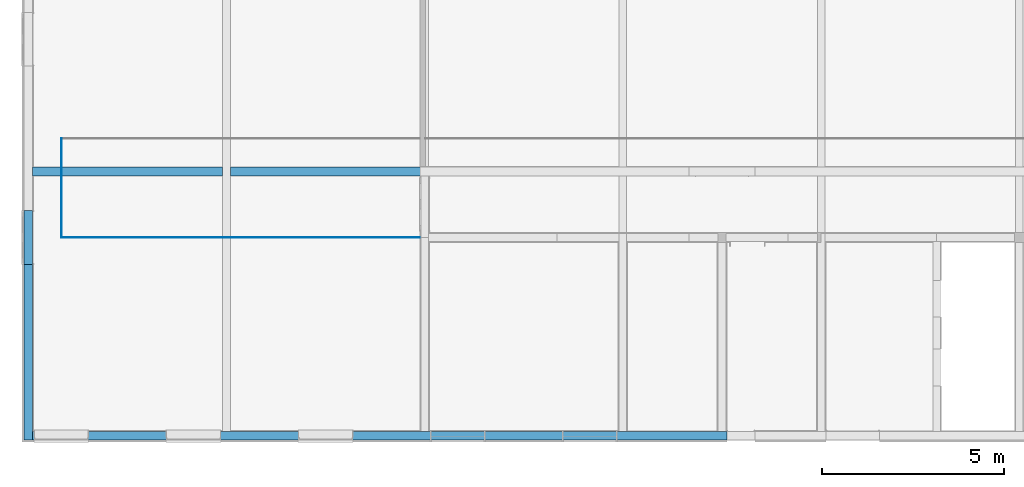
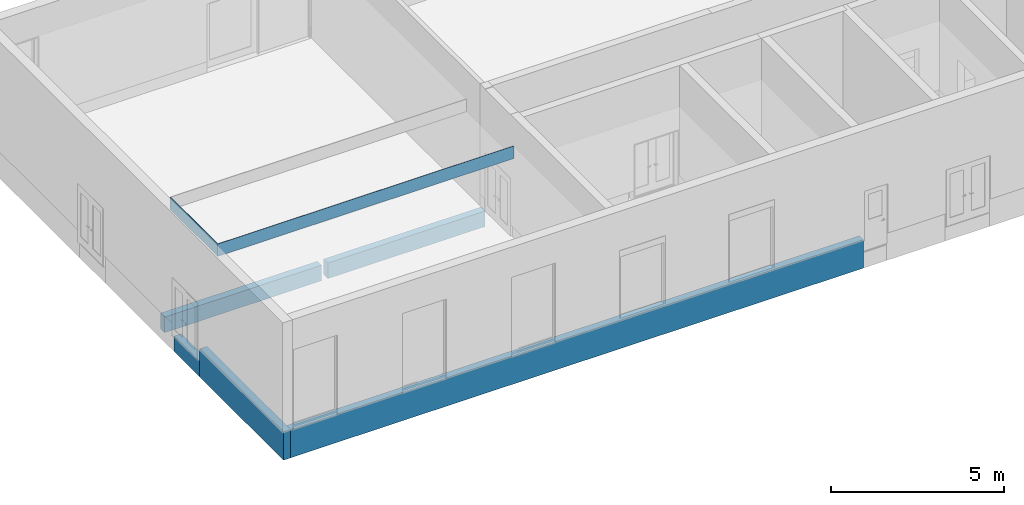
# One storey, part 1 of 22: 6 walls, 2 openings.
"""IFC4X3 building model written with IfcOpenShell, lengths in millimetres."""

from ifc_helpers import new_model, entity, si_unit, converted_unit, derived_unit, direction, frame, frame_2d, origin, origin_2d_with_axis, place, context, subcontext, project, spatial, rectangle, extrude, material, layer, layer_set, type_object, element, save


model = new_model("IFC4X3")

# Units and contexts
model_context = context("Model", 3, precision=0.01, world=origin(), true_north=direction((6.12303176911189e-17, 1.0)))
body_context = subcontext(model_context, "Body", "Model", "MODEL_VIEW")
ifc_project = project(units=[si_unit("LENGTHUNIT", "METRE", prefix="MILLI"), si_unit("AREAUNIT", "SQUARE_METRE"), si_unit("VOLUMEUNIT", "CUBIC_METRE"), converted_unit("PLANEANGLEUNIT", "DEGREE", entity("IfcPlaneAngleMeasure", 0.0174532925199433), si_unit("PLANEANGLEUNIT", "RADIAN"), dimensions=[0, 0, 0, 0, 0, 0, 0]), si_unit("MASSUNIT", "GRAM", prefix="KILO"), derived_unit("MASSDENSITYUNIT", [(si_unit("MASSUNIT", "GRAM", prefix="KILO"), 1), (si_unit("LENGTHUNIT", "METRE"), -3)]), derived_unit("IONCONCENTRATIONUNIT", [(si_unit("MASSUNIT", "GRAM", prefix="KILO"), 1), (si_unit("LENGTHUNIT", "METRE"), -3)]), derived_unit("MOMENTOFINERTIAUNIT", [(si_unit("LENGTHUNIT", "METRE"), 4)]), si_unit("TIMEUNIT", "SECOND"), si_unit("FREQUENCYUNIT", "HERTZ"), si_unit("THERMODYNAMICTEMPERATUREUNIT", "DEGREE_CELSIUS"), derived_unit("THERMALTRANSMITTANCEUNIT", [(si_unit("MASSUNIT", "GRAM", prefix="KILO"), 1), (si_unit("THERMODYNAMICTEMPERATUREUNIT", "KELVIN"), -1), (si_unit("TIMEUNIT", "SECOND"), -3)]), derived_unit("THERMALCONDUCTANCEUNIT", [(si_unit("MASSUNIT", "GRAM", prefix="KILO"), 1), (si_unit("THERMODYNAMICTEMPERATUREUNIT", "KELVIN"), -1), (si_unit("TIMEUNIT", "SECOND"), -3), (si_unit("LENGTHUNIT", "METRE"), 1)]), derived_unit("VOLUMETRICFLOWRATEUNIT", [(si_unit("LENGTHUNIT", "METRE", prefix="DECI"), 3), (si_unit("TIMEUNIT", "SECOND"), -1)]), derived_unit("MASSFLOWRATEUNIT", [(si_unit("MASSUNIT", "GRAM", prefix="KILO"), 1), (si_unit("TIMEUNIT", "SECOND"), -1)]), derived_unit("ROTATIONALFREQUENCYUNIT", [(si_unit("TIMEUNIT", "SECOND"), -1)]), si_unit("ELECTRICCURRENTUNIT", "AMPERE"), si_unit("ELECTRICVOLTAGEUNIT", "VOLT"), si_unit("POWERUNIT", "WATT"), si_unit("FORCEUNIT", "NEWTON", prefix="KILO"), si_unit("ILLUMINANCEUNIT", "LUX"), si_unit("LUMINOUSFLUXUNIT", "LUMEN"), si_unit("LUMINOUSINTENSITYUNIT", "CANDELA"), si_unit("ENERGYUNIT", "JOULE"), derived_unit("USERDEFINED", [(si_unit("MASSUNIT", "GRAM", prefix="KILO"), -1), (si_unit("LENGTHUNIT", "METRE"), -2), (si_unit("TIMEUNIT", "SECOND"), 3), (si_unit("LUMINOUSFLUXUNIT", "LUMEN"), 1)]), derived_unit("USERDEFINED", [(si_unit("MASSUNIT", "GRAM", prefix="KILO"), 1), (si_unit("TIMEUNIT", "SECOND"), -3), (si_unit("LENGTHUNIT", "METRE"), 3), (si_unit("ELECTRICCURRENTUNIT", "AMPERE"), -2)]), derived_unit("SOUNDPOWERUNIT", [(si_unit("MASSUNIT", "GRAM", prefix="KILO"), 1), (si_unit("TIMEUNIT", "SECOND"), -3), (si_unit("LENGTHUNIT", "METRE"), 2)]), derived_unit("SOUNDPRESSUREUNIT", [(si_unit("MASSUNIT", "GRAM", prefix="KILO"), 1), (si_unit("LENGTHUNIT", "METRE"), -1), (si_unit("TIMEUNIT", "SECOND"), -2)]), derived_unit("LINEARVELOCITYUNIT", [(si_unit("LENGTHUNIT", "METRE"), 1), (si_unit("TIMEUNIT", "SECOND"), -1)]), si_unit("PRESSUREUNIT", "PASCAL"), derived_unit("USERDEFINED", [(si_unit("MASSUNIT", "GRAM", prefix="KILO"), 1), (si_unit("LENGTHUNIT", "METRE"), -2), (si_unit("TIMEUNIT", "SECOND"), -2)]), derived_unit("LINEARFORCEUNIT", [(si_unit("MASSUNIT", "GRAM", prefix="KILO"), 1), (si_unit("TIMEUNIT", "SECOND"), -2)]), derived_unit("PLANARFORCEUNIT", [(si_unit("MASSUNIT", "GRAM", prefix="KILO"), 1), (si_unit("LENGTHUNIT", "METRE"), -1), (si_unit("TIMEUNIT", "SECOND"), -2)]), derived_unit("SPECIFICHEATCAPACITYUNIT", [(si_unit("THERMODYNAMICTEMPERATUREUNIT", "KELVIN"), -1), (si_unit("LENGTHUNIT", "METRE"), 2), (si_unit("TIMEUNIT", "SECOND"), -2)]), derived_unit("HEATFLUXDENSITYUNIT", [(si_unit("MASSUNIT", "GRAM", prefix="KILO"), 1), (si_unit("TIMEUNIT", "SECOND"), -3)]), derived_unit("HEATINGVALUEUNIT", [(si_unit("LENGTHUNIT", "METRE"), 2), (si_unit("TIMEUNIT", "SECOND"), -2)]), derived_unit("VAPORPERMEABILITYUNIT", [(si_unit("LENGTHUNIT", "METRE"), -1), (si_unit("TIMEUNIT", "SECOND"), 1)]), derived_unit("DYNAMICVISCOSITYUNIT", [(si_unit("MASSUNIT", "GRAM", prefix="KILO"), 1), (si_unit("TIMEUNIT", "SECOND"), -1), (si_unit("LENGTHUNIT", "METRE"), -1)]), derived_unit("THERMALEXPANSIONCOEFFICIENTUNIT", [(si_unit("THERMODYNAMICTEMPERATUREUNIT", "KELVIN"), -1)]), derived_unit("MODULUSOFELASTICITYUNIT", [(si_unit("MASSUNIT", "GRAM", prefix="KILO"), 1), (si_unit("LENGTHUNIT", "METRE"), -1), (si_unit("TIMEUNIT", "SECOND"), -2)]), derived_unit("ISOTHERMALMOISTURECAPACITYUNIT", [(si_unit("MASSUNIT", "GRAM", prefix="KILO"), -1), (si_unit("LENGTHUNIT", "METRE"), 3)]), derived_unit("MOISTUREDIFFUSIVITYUNIT", [(si_unit("TIMEUNIT", "SECOND"), -1), (si_unit("LENGTHUNIT", "METRE"), 2)]), derived_unit("AREADENSITYUNIT", [(si_unit("MASSUNIT", "GRAM", prefix="KILO"), 1), (si_unit("LENGTHUNIT", "METRE"), 2)]), derived_unit("MASSPERLENGTHUNIT", [(si_unit("MASSUNIT", "GRAM", prefix="KILO"), 1), (si_unit("LENGTHUNIT", "METRE"), -1)]), derived_unit("THERMALRESISTANCEUNIT", [(si_unit("MASSUNIT", "GRAM", prefix="KILO"), -1), (si_unit("TIMEUNIT", "SECOND"), 3), (si_unit("THERMODYNAMICTEMPERATUREUNIT", "KELVIN"), 1)]), derived_unit("ACCELERATIONUNIT", [(si_unit("LENGTHUNIT", "METRE"), 1), (si_unit("TIMEUNIT", "SECOND"), -2)]), derived_unit("ANGULARVELOCITYUNIT", [(si_unit("TIMEUNIT", "SECOND"), -1), (si_unit("PLANEANGLEUNIT", "RADIAN"), 1)]), derived_unit("LINEARSTIFFNESSUNIT", [(si_unit("MASSUNIT", "GRAM", prefix="KILO"), 1), (si_unit("TIMEUNIT", "SECOND"), -2)]), derived_unit("WARPINGCONSTANTUNIT", [(si_unit("LENGTHUNIT", "METRE"), 6)]), derived_unit("LINEARMOMENTUNIT", [(si_unit("MASSUNIT", "GRAM", prefix="KILO"), 1), (si_unit("LENGTHUNIT", "METRE"), 1), (si_unit("TIMEUNIT", "SECOND"), -2)]), derived_unit("TORQUEUNIT", [(si_unit("MASSUNIT", "GRAM", prefix="KILO"), 1), (si_unit("LENGTHUNIT", "METRE"), 2), (si_unit("TIMEUNIT", "SECOND"), -2)])], contexts=[model_context])

# Site, building, storey
site_placement = place(None, origin())
site = spatial("IfcSite", under=ifc_project, at=site_placement, Name="Default", CompositionType="ELEMENT")
building_placement = place(site_placement, origin())
building = spatial("IfcBuilding", under=site, at=building_placement, Name="事務所ビル", CompositionType="ELEMENT")
storey_placement = place(building_placement, origin())
storey = spatial("IfcBuildingStorey", under=building, at=storey_placement, Name="1FL", CompositionType="ELEMENT", Elevation=0.0)

# Wall
ifc_material_1 = material(Name="*コンクリート")
ifc_layer_1 = layer(ifc_material_1, 240.0, Name="*コンクリート")
ifc_layer_set_1 = layer_set([ifc_layer_1], Name="標準壁:(基礎梁)RC_w240h1000")
wall_type_1 = type_object("IfcWallType", Name="標準壁:(基礎梁)RC_w240h1000", PredefinedType="STANDARD", material=ifc_layer_set_1)
wall_1_placement = place(storey_placement, frame((0.0, -120.0, -600.0), z_axis=(0.0, 0.0, 1.0), x_axis=(0.0, 1.0, 0.0)))
element("IfcWall", 1, at=wall_1_placement, inside=storey, type_object=wall_type_1, material=ifc_layer_set_1, Name="標準壁:(基礎梁)RC_w240h1000", ObjectType="標準壁:(基礎梁)RC_w240h1000", PredefinedType="NOTDEFINED", context=body_context, shape_type="SweptSolid", body=[
    extrude(rectangle(XDim=4840.0, YDim=240.0, at=frame_2d((2420.0, 7.105427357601e-15), x_axis=(-1.0, 0.0))), origin(), (0.0, 0.0, 1.0), 1000.0),
])

# Wall, opening
wall_2_placement = place(storey_placement, frame((120.0, 0.0, -600.0)))
wall_2 = element("IfcWall", 2, at=wall_2_placement, inside=storey, type_object=wall_type_1, material=ifc_layer_set_1, Name="標準壁:(基礎梁)RC_w240h1000", ObjectType="標準壁:(基礎梁)RC_w240h1000", PredefinedType="NOTDEFINED", context=body_context, shape_type="SweptSolid", body=[
    extrude(rectangle(XDim=19122.0, YDim=240.0, at=frame_2d((9561.00000000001, 0.0), x_axis=(-1.0, 0.0))), origin(), (0.0, 0.0, 1.0), 1000.0),
])
opening_1_placement = place(wall_2_placement, frame((-120.0, 0.0, 600.0)))
element("IfcOpeningElement", 3, at=opening_1_placement, cuts=wall_2, Name="標準壁:(基礎梁)RC_w240h1000", PredefinedType="OPENING", context=body_context, shape_type="SweptSolid", body=[
    extrude(rectangle(XDim=2155.00000000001, YDim=779.999999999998, at=frame_2d((0.0, 2.1600499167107e-12), x_axis=(1.0, 0.0))), frame((19632.0, -1404.0, 1062.49999999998), z_axis=(0.0, 1.0, 0.0), x_axis=(0.0, 0.0, -1.0)), (0.0, 0.0, 1.0), 3048.0),
])

# Wall
ifc_layer_2 = layer(ifc_material_1, 240.0, Name="*コンクリート")
ifc_layer_set_2 = layer_set([ifc_layer_2], Name="標準壁:(基礎梁)RC_w240h650")
wall_type_2 = type_object("IfcWallType", Name="標準壁:(基礎梁)RC_w240h650", PredefinedType="STANDARD", material=ifc_layer_set_2)
wall_3_placement = place(storey_placement, frame((0.0, 4720.0, -600.0), z_axis=(0.0, 0.0, 1.0), x_axis=(0.0, 1.0, 0.0)))
element("IfcWall", 4, at=wall_3_placement, inside=storey, type_object=wall_type_2, material=ifc_layer_set_2, Name="標準壁:(基礎梁)RC_w240h650", ObjectType="標準壁:(基礎梁)RC_w240h650", PredefinedType="NOTDEFINED", context=body_context, shape_type="SweptSolid", body=[
    extrude(rectangle(XDim=1480.0, YDim=240.0, at=frame_2d((739.999999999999, 0.0), x_axis=(-1.0, 0.0))), origin(), (0.0, 0.0, 1.0), 550.0),
])

# Wall, opening
wall_4_placement = place(storey_placement, frame((120.0, 7280.0, -600.0)))
wall_4 = element("IfcWall", 5, at=wall_4_placement, inside=storey, type_object=wall_type_2, material=ifc_layer_set_2, Name="標準壁:(基礎梁)RC_w240h650", ObjectType="標準壁:(基礎梁)RC_w240h650", PredefinedType="NOTDEFINED", context=body_context, shape_type="SweptSolid", body=[
    extrude(rectangle(XDim=10695.0, YDim=240.0, at=frame_2d((5347.5, -3.69482222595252e-13), x_axis=(-1.0, 0.0))), origin(), (0.0, 0.0, 1.0), 550.0),
])
opening_2_placement = place(storey_placement, frame((120.0, 7280.0, -600.0)))
element("IfcOpeningElement", 6, at=opening_2_placement, cuts=wall_4, Name="標準壁:(基礎梁)RC_w240h650:1", PredefinedType="OPENING", context=body_context, shape_type="SweptSolid", body=[
    extrude(rectangle(XDim=550.0, YDim=240.0, at=origin_2d_with_axis()), frame((5235.0, 0.0, 275.0), z_axis=(1.0, 0.0, 0.0), x_axis=(0.0, 0.0, -1.0)), (0.0, 0.0, 1.0), 210.0),
])

# Walls
ifc_material_2 = material(Name="<Unnamed>")
ifc_layer_3 = layer(ifc_material_2, 15.0, Name="Layer")
ifc_layer_set_3 = layer_set([ifc_layer_3], Name="標準壁:GB-R15")
wall_type_3 = type_object("IfcWallType", Name="標準壁:GB-R15", PredefinedType="STANDARD", material=ifc_layer_set_3)
wall_5_placement = place(storey_placement, frame((10788.0, 5460.0, 2850.0), z_axis=(0.0, 0.0, 1.0), x_axis=(-1.0, 0.0, 0.0)))
element("IfcWall", 7, at=wall_5_placement, inside=storey, type_object=wall_type_3, material=ifc_layer_set_3, Name="標準壁:GB-R15", ObjectType="標準壁:GB-R15", PredefinedType="NOTDEFINED", context=body_context, shape_type="SweptSolid", body=[
    extrude(rectangle(XDim=9885.49999999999, YDim=15.0000000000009, at=frame_2d((4942.75, 1.19904086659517e-14), x_axis=(-1.0, 0.0))), origin(), (0.0, 0.0, 1.0), 440.0),
])
wall_6_placement = place(storey_placement, frame((910.0, 5467.4999999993, 2850.0), z_axis=(0.0, 0.0, 1.0), x_axis=(0.0, 1.0, 0.0)))
element("IfcWall", 8, at=wall_6_placement, inside=storey, type_object=wall_type_3, material=ifc_layer_set_3, Name="標準壁:GB-R15", ObjectType="標準壁:GB-R15", PredefinedType="NOTDEFINED", context=body_context, shape_type="SweptSolid", body=[
    extrude(rectangle(XDim=2729.99999999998, YDim=15.0000000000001, at=frame_2d((1364.99999999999, 0.0), x_axis=(-1.0, 0.0))), origin(), (0.0, 0.0, 1.0), 440.0),
])

save(model, "model.ifc")
